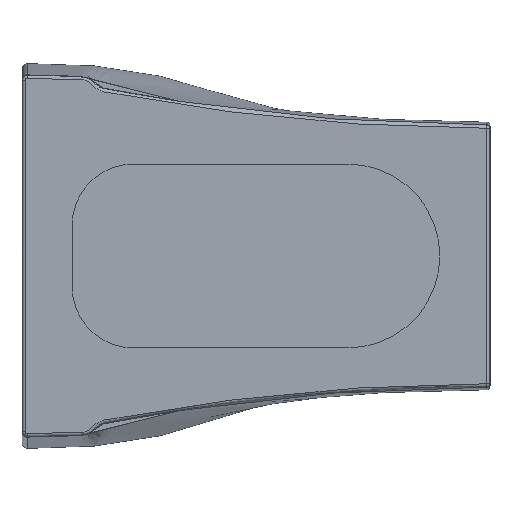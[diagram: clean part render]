
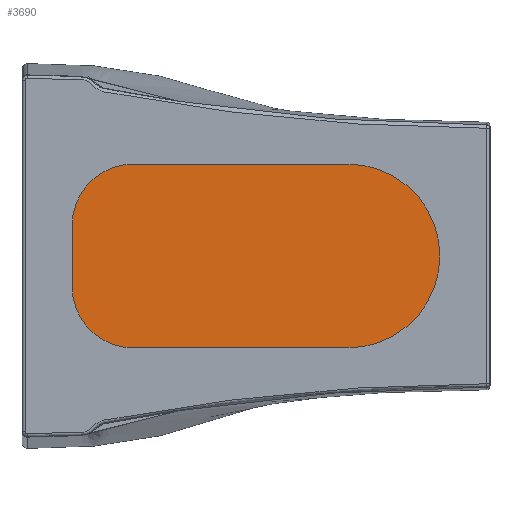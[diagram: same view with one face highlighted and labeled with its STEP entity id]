
A CAD part, left-side view. The second image highlights one B-rep face of the part: STEP entity #3690.
In plain terms, the highlighted planar face has unit normal (-1, 0, 0).
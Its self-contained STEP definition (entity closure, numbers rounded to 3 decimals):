
#85 = CARTESIAN_POINT ( 'NONE',  ( 20., -45., -27.5 ) ) ;
#102 = CIRCLE ( 'NONE', #1230, 55. ) ;
#132 = EDGE_CURVE ( 'NONE', #2180, #4822, #227, .T. ) ;
#227 = CIRCLE ( 'NONE', #3904, 55. ) ;
#346 = LINE ( 'NONE', #473, #2781 ) ;
#473 = CARTESIAN_POINT ( 'NONE',  ( 20., -292.5, -82.5 ) ) ;
#774 = VERTEX_POINT ( 'NONE', #4981 ) ;
#780 = CARTESIAN_POINT ( 'NONE',  ( 20., -292.5, 0. ) ) ;
#845 = VERTEX_POINT ( 'NONE', #965 ) ;
#965 = CARTESIAN_POINT ( 'NONE',  ( 20., -100., 82.5 ) ) ;
#981 = DIRECTION ( 'NONE',  ( 0., -1., 0. ) ) ;
#1166 = CARTESIAN_POINT ( 'NONE',  ( 20., -100., -82.5 ) ) ;
#1208 = LINE ( 'NONE', #8612, #4480 ) ;
#1230 = AXIS2_PLACEMENT_3D ( 'NONE', #7102, #4460, #5900 ) ;
#1321 = CARTESIAN_POINT ( 'NONE',  ( 20., -45., 27.5 ) ) ;
#1380 = AXIS2_PLACEMENT_3D ( 'NONE', #2920, #7767, #7595 ) ;
#1431 = CARTESIAN_POINT ( 'NONE',  ( 20., -292.5, 82.5 ) ) ;
#2135 = DIRECTION ( 'NONE',  ( 0., -1., 0. ) ) ;
#2180 = VERTEX_POINT ( 'NONE', #85 ) ;
#2284 = EDGE_CURVE ( 'NONE', #4822, #774, #346, .T. ) ;
#2366 = CIRCLE ( 'NONE', #7290, 82.5 ) ;
#2781 = VECTOR ( 'NONE', #8507, 1000. ) ;
#2904 = DIRECTION ( 'NONE',  ( 0., -1., 0. ) ) ;
#2920 = CARTESIAN_POINT ( 'NONE',  ( 20., -292.5, 0. ) ) ;
#3023 = VERTEX_POINT ( 'NONE', #4173 ) ;
#3076 = ORIENTED_EDGE ( 'NONE', *, *, #5780, .T. ) ;
#3151 = EDGE_CURVE ( 'NONE', #6803, #845, #8314, .T. ) ;
#3690 = ADVANCED_FACE ( 'NONE', ( #4953 ), #4292, .T. ) ;
#3776 = DIRECTION ( 'NONE',  ( 0., 1., 0. ) ) ;
#3904 = AXIS2_PLACEMENT_3D ( 'NONE', #6179, #4204, #981 ) ;
#4173 = CARTESIAN_POINT ( 'NONE',  ( 20., -375., 0. ) ) ;
#4204 = DIRECTION ( 'NONE',  ( -1., 0., 0. ) ) ;
#4292 = PLANE ( 'NONE',  #6446 ) ;
#4460 = DIRECTION ( 'NONE',  ( -1., 0., 0. ) ) ;
#4480 = VECTOR ( 'NONE', #7780, 1000. ) ;
#4822 = VERTEX_POINT ( 'NONE', #1166 ) ;
#4866 = EDGE_CURVE ( 'NONE', #7465, #2180, #1208, .T. ) ;
#4937 = DIRECTION ( 'NONE',  ( -1., 0., 0. ) ) ;
#4953 = FACE_OUTER_BOUND ( 'NONE', #8168, .T. ) ;
#4981 = CARTESIAN_POINT ( 'NONE',  ( 20., -292.5, -82.5 ) ) ;
#5551 = ORIENTED_EDGE ( 'NONE', *, *, #132, .T. ) ;
#5557 = EDGE_CURVE ( 'NONE', #845, #7465, #102, .T. ) ;
#5666 = ORIENTED_EDGE ( 'NONE', *, *, #5557, .T. ) ;
#5735 = VECTOR ( 'NONE', #3776, 1000. ) ;
#5780 = EDGE_CURVE ( 'NONE', #3023, #6803, #2366, .T. ) ;
#5900 = DIRECTION ( 'NONE',  ( 0., -1., 0. ) ) ;
#6179 = CARTESIAN_POINT ( 'NONE',  ( 20., -100., -27.5 ) ) ;
#6446 = AXIS2_PLACEMENT_3D ( 'NONE', #8167, #8209, #2135 ) ;
#6619 = ORIENTED_EDGE ( 'NONE', *, *, #4866, .T. ) ;
#6803 = VERTEX_POINT ( 'NONE', #1431 ) ;
#6872 = CIRCLE ( 'NONE', #1380, 82.5 ) ;
#7042 = CARTESIAN_POINT ( 'NONE',  ( 20., -292.5, 82.5 ) ) ;
#7102 = CARTESIAN_POINT ( 'NONE',  ( 20., -100., 27.5 ) ) ;
#7240 = EDGE_CURVE ( 'NONE', #774, #3023, #6872, .T. ) ;
#7290 = AXIS2_PLACEMENT_3D ( 'NONE', #780, #4937, #2904 ) ;
#7465 = VERTEX_POINT ( 'NONE', #1321 ) ;
#7595 = DIRECTION ( 'NONE',  ( 0., -1., 0. ) ) ;
#7767 = DIRECTION ( 'NONE',  ( -1., 0., 0. ) ) ;
#7780 = DIRECTION ( 'NONE',  ( 0., 0., -1. ) ) ;
#7849 = ORIENTED_EDGE ( 'NONE', *, *, #2284, .T. ) ;
#8167 = CARTESIAN_POINT ( 'NONE',  ( 20., -292.5, 0. ) ) ;
#8168 = EDGE_LOOP ( 'NONE', ( #8519, #5666, #6619, #5551, #7849, #8360, #3076 ) ) ;
#8209 = DIRECTION ( 'NONE',  ( -1., 0., 0. ) ) ;
#8314 = LINE ( 'NONE', #7042, #5735 ) ;
#8360 = ORIENTED_EDGE ( 'NONE', *, *, #7240, .T. ) ;
#8507 = DIRECTION ( 'NONE',  ( 0., -1., 0. ) ) ;
#8519 = ORIENTED_EDGE ( 'NONE', *, *, #3151, .T. ) ;
#8612 = CARTESIAN_POINT ( 'NONE',  ( 20., -45., -82.5 ) ) ;
